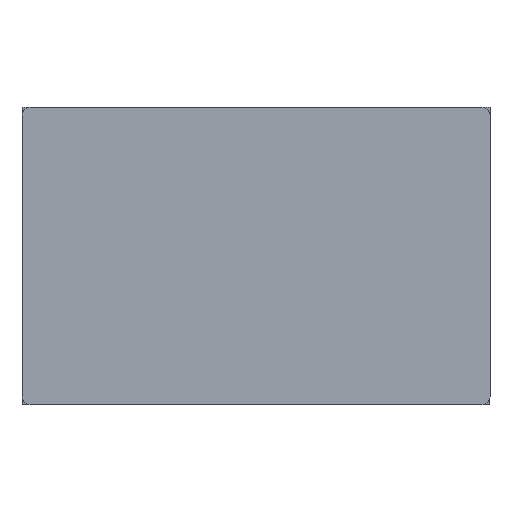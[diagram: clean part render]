
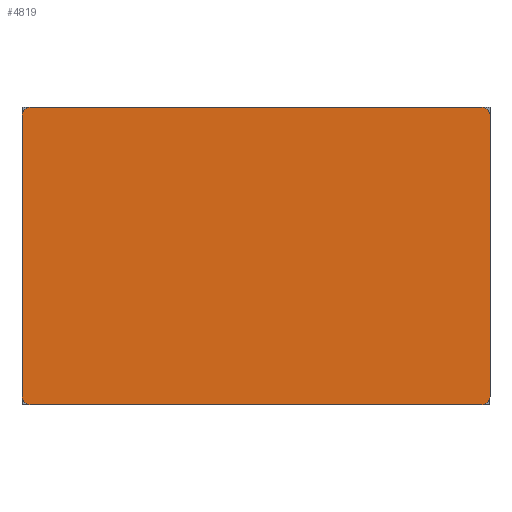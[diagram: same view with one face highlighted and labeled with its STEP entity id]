
A CAD part, front view. The second image highlights one B-rep face of the part: STEP entity #4819.
In plain terms, the highlighted planar face has unit normal (0, -1, 0).
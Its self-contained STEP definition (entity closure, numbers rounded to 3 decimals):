
#932 = CARTESIAN_POINT ( 'NONE',  ( -5.35, -0.2, -31.48 ) ) ;
#1224 = CARTESIAN_POINT ( 'NONE',  ( -4.35, -0.2, -31.48 ) ) ;
#1514 = DIRECTION ( 'NONE',  ( 1., 0., 0. ) ) ;
#1682 = CIRCLE ( 'NONE', #17658, 1. ) ;
#1826 = CARTESIAN_POINT ( 'NONE',  ( 0., -0.2, 0. ) ) ;
#1834 = DIRECTION ( 'NONE',  ( 0., 0., -1. ) ) ;
#2138 = VECTOR ( 'NONE', #1834, 1000. ) ;
#2312 = VERTEX_POINT ( 'NONE', #1224 ) ;
#3139 = VERTEX_POINT ( 'NONE', #18469 ) ;
#3145 = DIRECTION ( 'NONE',  ( -1., 0., 0. ) ) ;
#3198 = DIRECTION ( 'NONE',  ( 0., -1., 0. ) ) ;
#3250 = AXIS2_PLACEMENT_3D ( 'NONE', #14648, #4444, #6136 ) ;
#3664 = CARTESIAN_POINT ( 'NONE',  ( -4.35, -0.2, 5.32 ) ) ;
#3756 = CARTESIAN_POINT ( 'NONE',  ( 52.55, -0.2, -31.48 ) ) ;
#4171 = CARTESIAN_POINT ( 'NONE',  ( 52.55, -0.2, -30.48 ) ) ;
#4444 = DIRECTION ( 'NONE',  ( 0., -1., 0. ) ) ;
#4510 = CARTESIAN_POINT ( 'NONE',  ( -5.35, -0.2, 4.32 ) ) ;
#4586 = AXIS2_PLACEMENT_3D ( 'NONE', #12517, #12417, #19273 ) ;
#4819 = ADVANCED_FACE ( 'NONE', ( #20585 ), #15452, .T. ) ;
#5072 = LINE ( 'NONE', #11993, #21344 ) ;
#5076 = ORIENTED_EDGE ( 'NONE', *, *, #18019, .F. ) ;
#5202 = VERTEX_POINT ( 'NONE', #20115 ) ;
#6031 = CIRCLE ( 'NONE', #4586, 1. ) ;
#6136 = DIRECTION ( 'NONE',  ( 0., 0., 1. ) ) ;
#6608 = CARTESIAN_POINT ( 'NONE',  ( -5.35, -0.2, 5.32 ) ) ;
#7133 = EDGE_CURVE ( 'NONE', #3139, #2312, #5072, .T. ) ;
#7575 = ORIENTED_EDGE ( 'NONE', *, *, #10730, .T. ) ;
#7867 = VECTOR ( 'NONE', #1514, 1000. ) ;
#9492 = VERTEX_POINT ( 'NONE', #4510 ) ;
#10020 = AXIS2_PLACEMENT_3D ( 'NONE', #11947, #15698, #15594 ) ;
#10133 = CIRCLE ( 'NONE', #3250, 1. ) ;
#10730 = EDGE_CURVE ( 'NONE', #19685, #2312, #19832, .T. ) ;
#10881 = VERTEX_POINT ( 'NONE', #3664 ) ;
#11156 = EDGE_CURVE ( 'NONE', #5202, #19189, #10133, .T. ) ;
#11617 = LINE ( 'NONE', #6608, #7867 ) ;
#11947 = CARTESIAN_POINT ( 'NONE',  ( -4.35, -0.2, -30.48 ) ) ;
#11993 = CARTESIAN_POINT ( 'NONE',  ( -5.35, -0.2, -31.48 ) ) ;
#12327 = CARTESIAN_POINT ( 'NONE',  ( -5.35, -0.2, -30.48 ) ) ;
#12417 = DIRECTION ( 'NONE',  ( 0., -1., 0. ) ) ;
#12423 = ORIENTED_EDGE ( 'NONE', *, *, #11156, .T. ) ;
#12517 = CARTESIAN_POINT ( 'NONE',  ( 51.55, -0.2, -30.48 ) ) ;
#12644 = ORIENTED_EDGE ( 'NONE', *, *, #14722, .T. ) ;
#13259 = ORIENTED_EDGE ( 'NONE', *, *, #7133, .F. ) ;
#13667 = ORIENTED_EDGE ( 'NONE', *, *, #15051, .T. ) ;
#13738 = DIRECTION ( 'NONE',  ( 0., 0., -1. ) ) ;
#14230 = CARTESIAN_POINT ( 'NONE',  ( -4.35, -0.2, 4.32 ) ) ;
#14332 = DIRECTION ( 'NONE',  ( 0., 0., 1. ) ) ;
#14648 = CARTESIAN_POINT ( 'NONE',  ( 51.55, -0.2, 4.32 ) ) ;
#14722 = EDGE_CURVE ( 'NONE', #10881, #9492, #1682, .T. ) ;
#15051 = EDGE_CURVE ( 'NONE', #3139, #20739, #6031, .T. ) ;
#15324 = EDGE_CURVE ( 'NONE', #10881, #19189, #11617, .T. ) ;
#15452 = PLANE ( 'NONE',  #20270 ) ;
#15594 = DIRECTION ( 'NONE',  ( 0., 0., 1. ) ) ;
#15698 = DIRECTION ( 'NONE',  ( 0., -1., 0. ) ) ;
#15855 = EDGE_LOOP ( 'NONE', ( #20128, #7575, #13259, #13667, #5076, #12423, #16538, #12644 ) ) ;
#16051 = DIRECTION ( 'NONE',  ( 0., -1., 0. ) ) ;
#16538 = ORIENTED_EDGE ( 'NONE', *, *, #15324, .F. ) ;
#17658 = AXIS2_PLACEMENT_3D ( 'NONE', #14230, #16051, #14332 ) ;
#17694 = EDGE_CURVE ( 'NONE', #19685, #9492, #21626, .T. ) ;
#17744 = VECTOR ( 'NONE', #21513, 1000. ) ;
#18019 = EDGE_CURVE ( 'NONE', #5202, #20739, #20927, .T. ) ;
#18469 = CARTESIAN_POINT ( 'NONE',  ( 51.55, -0.2, -31.48 ) ) ;
#19189 = VERTEX_POINT ( 'NONE', #21973 ) ;
#19273 = DIRECTION ( 'NONE',  ( 0., 0., 1. ) ) ;
#19685 = VERTEX_POINT ( 'NONE', #12327 ) ;
#19832 = CIRCLE ( 'NONE', #10020, 1. ) ;
#20115 = CARTESIAN_POINT ( 'NONE',  ( 52.55, -0.2, 4.32 ) ) ;
#20128 = ORIENTED_EDGE ( 'NONE', *, *, #17694, .F. ) ;
#20270 = AXIS2_PLACEMENT_3D ( 'NONE', #1826, #3198, #13738 ) ;
#20585 = FACE_OUTER_BOUND ( 'NONE', #15855, .T. ) ;
#20739 = VERTEX_POINT ( 'NONE', #4171 ) ;
#20927 = LINE ( 'NONE', #3756, #2138 ) ;
#21344 = VECTOR ( 'NONE', #3145, 1000. ) ;
#21513 = DIRECTION ( 'NONE',  ( 0., 0., 1. ) ) ;
#21626 = LINE ( 'NONE', #932, #17744 ) ;
#21973 = CARTESIAN_POINT ( 'NONE',  ( 51.55, -0.2, 5.32 ) ) ;
